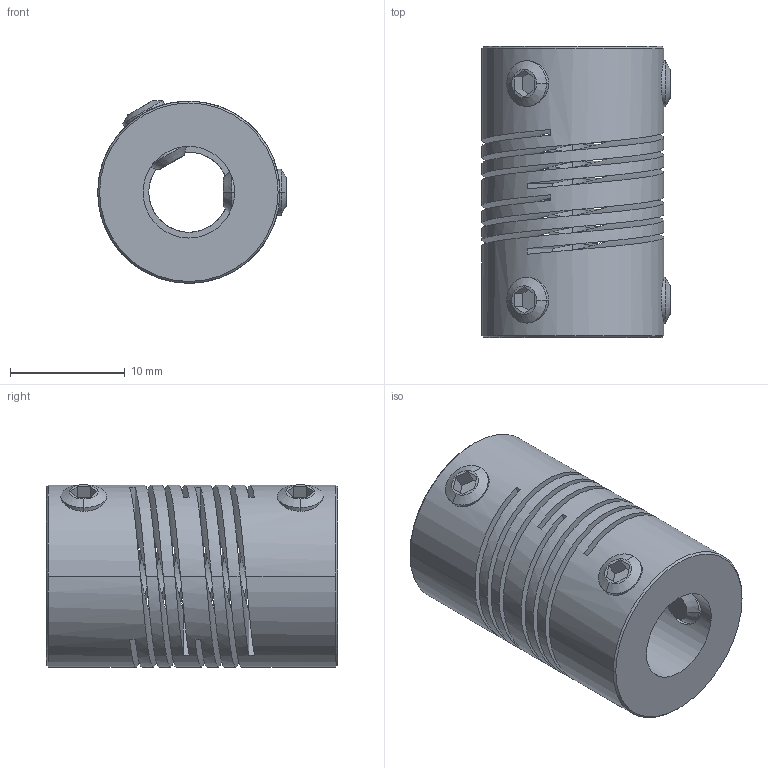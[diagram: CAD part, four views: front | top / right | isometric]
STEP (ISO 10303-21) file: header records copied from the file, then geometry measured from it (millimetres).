
FILE_DESCRIPTION((''),'2;1');
FILE_NAME('706_16_ASM','2006-12-06T',('Gary Melling'),(''),'PRO/ENGINEER BY PARAMETRIC TECHNOLOGY CORPORATION, 2006240','PRO/ENGINEER BY PARAMETRIC TECHNOLOGY CORPORATION, 2006240','');
FILE_SCHEMA(('CONFIG_CONTROL_DESIGN'));
Length unit declared in the file: millimetre
Products named in the file (3): 706_16; GS_4S; 706_16_ASM
Assembly tree (5 placements, depth 2):
  706_16_ASM
    706_16
    GS_4S  x4
Bounding box: 16.45 x 25.4 x 15.94 mm (x, y, z)
Volume: 3444.1 mm3; surface area: 4482.1 mm2
Topology: 5 solids, 5 shells, 122 faces, 334 edges, 212 vertices
Faces by surface type: plane 52, cylinder 38, cone 20, bspline 12
Entity records: 4795 total; most frequent: CARTESIAN_POINT 2726, ORIENTED_EDGE 476, DIRECTION 324, EDGE_CURVE 238, VERTEX_POINT 152, VECTOR 122, LINE 122, AXIS2_PLACEMENT_3D 101
